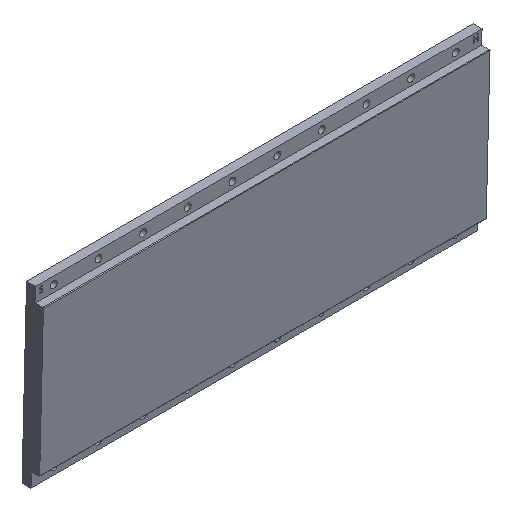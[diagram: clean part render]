
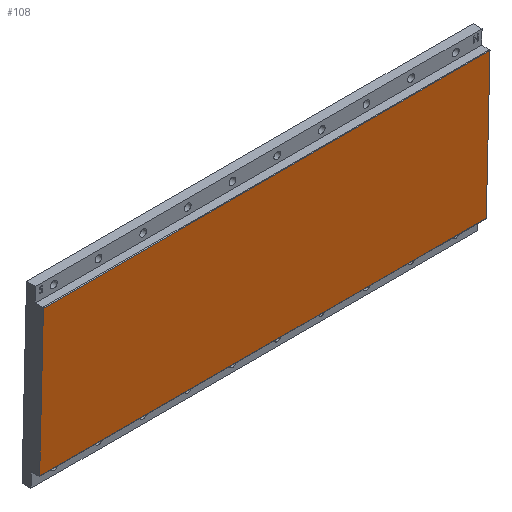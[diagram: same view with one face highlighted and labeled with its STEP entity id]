
A CAD part, isometric view. The second image highlights one B-rep face of the part: STEP entity #108.
In plain terms, the highlighted planar face has unit normal (0, -1, 0).
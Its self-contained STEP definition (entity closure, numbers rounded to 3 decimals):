
#108 = ADVANCED_FACE( '', ( #279 ), #280, .F. );
#279 = FACE_OUTER_BOUND( '', #499, .T. );
#280 = PLANE( '', #500 );
#499 = EDGE_LOOP( '', ( #800, #801, #802, #803 ) );
#500 = AXIS2_PLACEMENT_3D( '', #804, #805, #806 );
#800 = ORIENTED_EDGE( '', *, *, #1233, .F. );
#801 = ORIENTED_EDGE( '', *, *, #1234, .T. );
#802 = ORIENTED_EDGE( '', *, *, #1159, .F. );
#803 = ORIENTED_EDGE( '', *, *, #1235, .T. );
#804 = CARTESIAN_POINT( '', ( 0., -5.6, 0. ) );
#805 = DIRECTION( '', ( 0., 1., 0. ) );
#806 = DIRECTION( '', ( 0., 0., 1. ) );
#1159 = EDGE_CURVE( '', #1343, #1344, #1345, .T. );
#1233 = EDGE_CURVE( '', #1472, #1473, #1474, .T. );
#1234 = EDGE_CURVE( '', #1472, #1344, #1475, .F. );
#1235 = EDGE_CURVE( '', #1343, #1473, #1476, .F. );
#1343 = VERTEX_POINT( '', #1627 );
#1344 = VERTEX_POINT( '', #1628 );
#1345 = LINE( '', #1629, #1630 );
#1472 = VERTEX_POINT( '', #1827 );
#1473 = VERTEX_POINT( '', #1828 );
#1474 = LINE( '', #1829, #1830 );
#1475 = LINE( '', #1831, #1832 );
#1476 = LINE( '', #1833, #1834 );
#1627 = CARTESIAN_POINT( '', ( 126.297, -5.6, 40.968 ) );
#1628 = CARTESIAN_POINT( '', ( 123.778, -5.6, -55.232 ) );
#1629 = CARTESIAN_POINT( '', ( 126.307, -5.6, 41.368 ) );
#1630 = VECTOR( '', #2103, 1000. );
#1827 = CARTESIAN_POINT( '', ( -176.219, -5.6, -55.232 ) );
#1828 = CARTESIAN_POINT( '', ( -173.704, -5.6, 40.968 ) );
#1829 = CARTESIAN_POINT( '', ( -176.23, -5.6, -55.632 ) );
#1830 = VECTOR( '', #2213, 1000. );
#1831 = CARTESIAN_POINT( '', ( 123.767, -5.6, -55.232 ) );
#1832 = VECTOR( '', #2214, 1000. );
#1833 = CARTESIAN_POINT( '', ( -173.693, -5.6, 40.968 ) );
#1834 = VECTOR( '', #2215, 1000. );
#2103 = DIRECTION( '', ( -0.026, 0., -1. ) );
#2213 = DIRECTION( '', ( 0.026, 0., 1. ) );
#2214 = DIRECTION( '', ( -1., 0., 0. ) );
#2215 = DIRECTION( '', ( 1., 0., 0. ) );
